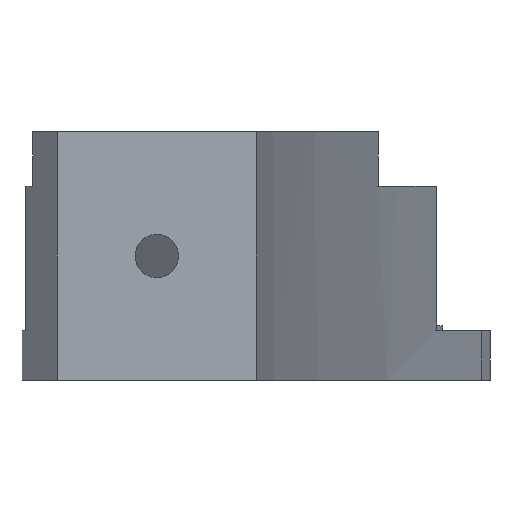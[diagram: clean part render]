
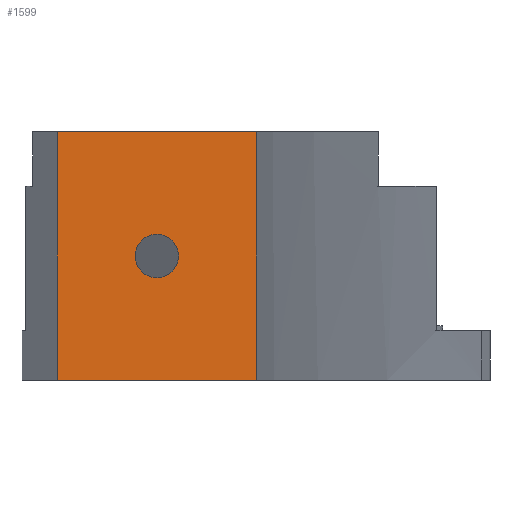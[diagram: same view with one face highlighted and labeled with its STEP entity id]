
A CAD part, front view. The second image highlights one B-rep face of the part: STEP entity #1599.
In plain terms, the highlighted planar face has unit normal (0, -1, 0).
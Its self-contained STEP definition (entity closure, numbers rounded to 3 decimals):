
#90=FACE_BOUND('',#346,.T.);
#145=CIRCLE('',#1734,1.75);
#213=FACE_OUTER_BOUND('',#345,.T.);
#345=EDGE_LOOP('',(#1404,#1405,#1406,#1407));
#346=EDGE_LOOP('',(#1408));
#431=LINE('',#2376,#592);
#464=LINE('',#2477,#625);
#507=LINE('',#2575,#668);
#508=LINE('',#2576,#669);
#592=VECTOR('',#1933,10.);
#625=VECTOR('',#2024,10.);
#668=VECTOR('',#2125,10.);
#669=VECTOR('',#2126,10.);
#759=VERTEX_POINT('',#2373);
#760=VERTEX_POINT('',#2375);
#798=VERTEX_POINT('',#2475);
#799=VERTEX_POINT('',#2476);
#826=VERTEX_POINT('',#2577);
#928=EDGE_CURVE('',#759,#760,#431,.T.);
#977=EDGE_CURVE('',#798,#799,#464,.T.);
#1028=EDGE_CURVE('',#799,#759,#507,.T.);
#1029=EDGE_CURVE('',#798,#760,#508,.T.);
#1030=EDGE_CURVE('',#826,#826,#145,.T.);
#1404=ORIENTED_EDGE('',*,*,#1028,.F.);
#1405=ORIENTED_EDGE('',*,*,#977,.F.);
#1406=ORIENTED_EDGE('',*,*,#1029,.T.);
#1407=ORIENTED_EDGE('',*,*,#928,.F.);
#1408=ORIENTED_EDGE('',*,*,#1030,.F.);
#1520=PLANE('',#1733);
#1599=ADVANCED_FACE('',(#213,#90),#1520,.F.);
#1733=AXIS2_PLACEMENT_3D('',#2574,#2123,#2124);
#1734=AXIS2_PLACEMENT_3D('',#2578,#2127,#2128);
#1933=DIRECTION('',(1.,0.,0.));
#2024=DIRECTION('',(-1.,0.,0.));
#2123=DIRECTION('center_axis',(0.,1.,0.));
#2124=DIRECTION('ref_axis',(0.,0.,1.));
#2125=DIRECTION('',(0.,0.,1.));
#2126=DIRECTION('',(0.,0.,1.));
#2127=DIRECTION('center_axis',(0.,-1.,0.));
#2128=DIRECTION('ref_axis',(-1.,0.,0.));
#2373=CARTESIAN_POINT('',(-16.,-149.9,2.));
#2375=CARTESIAN_POINT('',(0.,-149.9,2.));
#2376=CARTESIAN_POINT('',(-16.,-149.9,2.));
#2475=CARTESIAN_POINT('',(0.,-149.9,-18.));
#2476=CARTESIAN_POINT('',(-16.,-149.9,-18.));
#2477=CARTESIAN_POINT('',(-7.91,-149.9,-18.));
#2574=CARTESIAN_POINT('Origin',(-7.819,-149.9,-9.03));
#2575=CARTESIAN_POINT('',(-16.,-149.9,0.));
#2576=CARTESIAN_POINT('',(0.,-149.9,0.));
#2577=CARTESIAN_POINT('',(-6.25,-149.9,-8.));
#2578=CARTESIAN_POINT('Origin',(-8.,-149.9,-8.));
